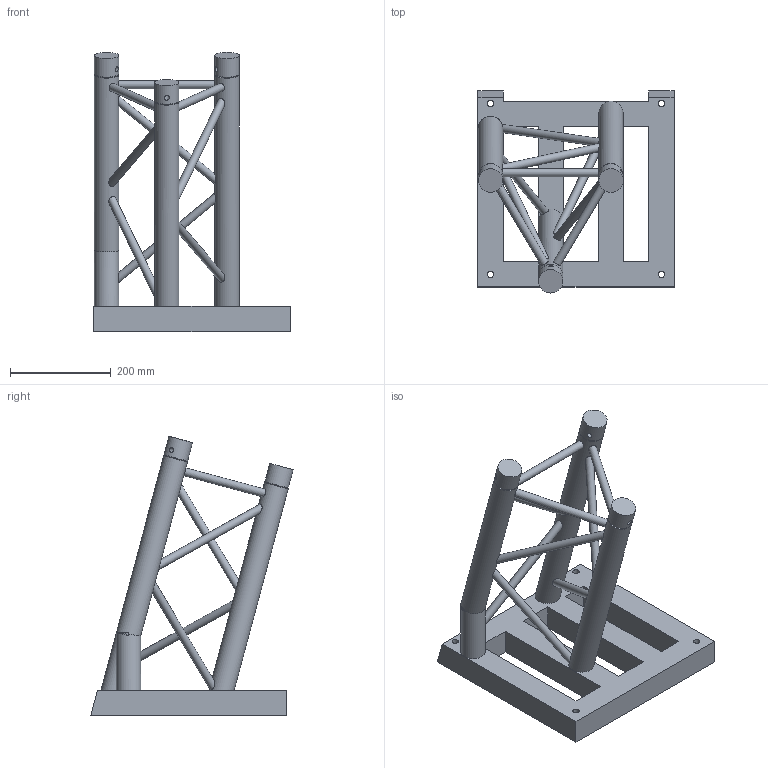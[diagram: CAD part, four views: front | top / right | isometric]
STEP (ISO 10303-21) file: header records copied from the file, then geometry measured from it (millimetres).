
FILE_DESCRIPTION(/* description */ (''),/* implementation_level */ '2;1');
FILE_NAME(/* name */ 'M:\Symbolen_NIEUW\STP\Boxcorner\211710003.stp',/* time_stamp */ '2015-06-08T14:31:28+02:00',/* author */ ('Sietse'),/* organization */ (''),/* preprocessor_version */ 'ST-DEVELOPER v15.6',/* originating_system */ 'Autodesk Inventor 2015',/* authorisation */ '');
FILE_SCHEMA (('AUTOMOTIVE_DESIGN { 1 0 10303 214 3 1 1 }'));
Length unit declared in the file: millimetre
Products named in the file (1): 160024391
Bounding box: 389 x 401.82 x 554.29 mm (x, y, z)
Volume: 7600555.9 mm3; surface area: 710234.1 mm2
Topology: 4 solids, 6 shells, 95 faces, 212 edges, 135 vertices
Faces by surface type: plane 57, cylinder 35, cone 3
Full cylindrical faces by diameter (mm): 10 x3, 12.5 x4, 16 x9, 48.3 x7
Entity records: 3154 total; most frequent: CARTESIAN_POINT 1048, DIRECTION 402, ORIENTED_EDGE 354, EDGE_CURVE 171, AXIS2_PLACEMENT_3D 167, EDGE_LOOP 156, VERTEX_POINT 123, STYLED_ITEM 88
